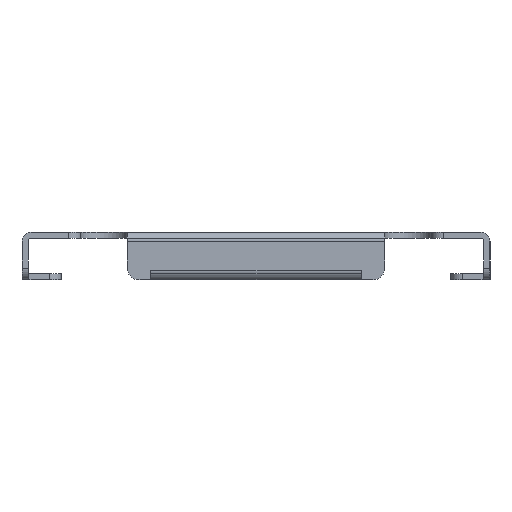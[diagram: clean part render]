
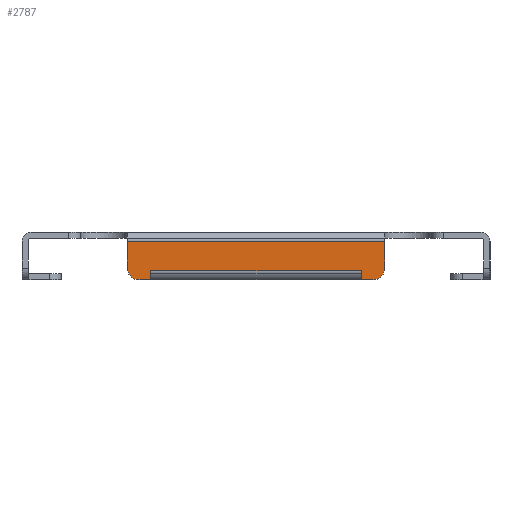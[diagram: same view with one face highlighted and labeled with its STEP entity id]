
A CAD part, left-side view. The second image highlights one B-rep face of the part: STEP entity #2787.
In plain terms, the highlighted planar face has unit normal (-1, 0, 0).
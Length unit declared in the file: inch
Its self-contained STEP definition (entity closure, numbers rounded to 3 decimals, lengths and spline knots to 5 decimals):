
#60=PLANE('',#2999);
#159=FACE_OUTER_BOUND('',#301,.T.);
#301=EDGE_LOOP('',(#1989,#1990,#1991,#1992,#1993,#1994,#1995,#1996,#1997,
#1998,#1999,#2000,#2001,#2002));
#499=LINE('',#4229,#799);
#502=LINE('',#4235,#802);
#503=LINE('',#4237,#803);
#504=LINE('',#4239,#804);
#505=LINE('',#4243,#805);
#506=LINE('',#4245,#806);
#507=LINE('',#4247,#807);
#508=LINE('',#4249,#808);
#509=LINE('',#4251,#809);
#510=LINE('',#4253,#810);
#511=LINE('',#4255,#811);
#512=LINE('',#4256,#812);
#799=VECTOR('',#3400,0.3937);
#802=VECTOR('',#3405,0.3937);
#803=VECTOR('',#3406,0.3937);
#804=VECTOR('',#3407,0.3937);
#805=VECTOR('',#3410,0.3937);
#806=VECTOR('',#3411,0.3937);
#807=VECTOR('',#3412,0.3937);
#808=VECTOR('',#3413,0.3937);
#809=VECTOR('',#3414,0.3937);
#810=VECTOR('',#3415,0.3937);
#811=VECTOR('',#3416,0.3937);
#812=VECTOR('',#3417,0.3937);
#1066=CIRCLE('',#2997,0.125);
#1067=CIRCLE('',#3000,0.125);
#1219=VERTEX_POINT('',#4222);
#1220=VERTEX_POINT('',#4224);
#1221=VERTEX_POINT('',#4228);
#1223=VERTEX_POINT('',#4234);
#1224=VERTEX_POINT('',#4236);
#1225=VERTEX_POINT('',#4238);
#1226=VERTEX_POINT('',#4240);
#1227=VERTEX_POINT('',#4242);
#1228=VERTEX_POINT('',#4244);
#1229=VERTEX_POINT('',#4246);
#1230=VERTEX_POINT('',#4248);
#1231=VERTEX_POINT('',#4250);
#1232=VERTEX_POINT('',#4252);
#1233=VERTEX_POINT('',#4254);
#1531=EDGE_CURVE('',#1219,#1220,#1066,.T.);
#1533=EDGE_CURVE('',#1221,#1220,#499,.T.);
#1536=EDGE_CURVE('',#1219,#1223,#502,.T.);
#1537=EDGE_CURVE('',#1224,#1223,#503,.T.);
#1538=EDGE_CURVE('',#1224,#1225,#504,.T.);
#1539=EDGE_CURVE('',#1226,#1225,#1067,.T.);
#1540=EDGE_CURVE('',#1226,#1227,#505,.T.);
#1541=EDGE_CURVE('',#1227,#1228,#506,.T.);
#1542=EDGE_CURVE('',#1228,#1229,#507,.T.);
#1543=EDGE_CURVE('',#1229,#1230,#508,.T.);
#1544=EDGE_CURVE('',#1230,#1231,#509,.T.);
#1545=EDGE_CURVE('',#1231,#1232,#510,.T.);
#1546=EDGE_CURVE('',#1232,#1233,#511,.T.);
#1547=EDGE_CURVE('',#1233,#1221,#512,.T.);
#1989=ORIENTED_EDGE('',*,*,#1531,.F.);
#1990=ORIENTED_EDGE('',*,*,#1536,.T.);
#1991=ORIENTED_EDGE('',*,*,#1537,.F.);
#1992=ORIENTED_EDGE('',*,*,#1538,.T.);
#1993=ORIENTED_EDGE('',*,*,#1539,.F.);
#1994=ORIENTED_EDGE('',*,*,#1540,.T.);
#1995=ORIENTED_EDGE('',*,*,#1541,.T.);
#1996=ORIENTED_EDGE('',*,*,#1542,.T.);
#1997=ORIENTED_EDGE('',*,*,#1543,.T.);
#1998=ORIENTED_EDGE('',*,*,#1544,.T.);
#1999=ORIENTED_EDGE('',*,*,#1545,.T.);
#2000=ORIENTED_EDGE('',*,*,#1546,.T.);
#2001=ORIENTED_EDGE('',*,*,#1547,.T.);
#2002=ORIENTED_EDGE('',*,*,#1533,.T.);
#2787=ADVANCED_FACE('',(#159),#60,.F.);
#2997=AXIS2_PLACEMENT_3D('',#4225,#3395,#3396);
#2999=AXIS2_PLACEMENT_3D('',#4233,#3403,#3404);
#3000=AXIS2_PLACEMENT_3D('',#4241,#3408,#3409);
#3395=DIRECTION('center_axis',(1.,0.,0.));
#3396=DIRECTION('ref_axis',(0.,-0.707,-0.707));
#3400=DIRECTION('',(0.,-1.,0.));
#3403=DIRECTION('center_axis',(1.,0.,0.));
#3404=DIRECTION('ref_axis',(0.,0.,-1.));
#3405=DIRECTION('',(0.,0.,1.));
#3406=DIRECTION('',(0.,-1.,0.));
#3407=DIRECTION('',(0.,0.,-1.));
#3408=DIRECTION('center_axis',(1.,0.,0.));
#3409=DIRECTION('ref_axis',(0.,0.707,-0.707));
#3410=DIRECTION('',(0.,-1.,0.));
#3411=DIRECTION('',(0.,0.,1.));
#3412=DIRECTION('',(0.,-1.,0.));
#3413=DIRECTION('',(0.,0.,-1.));
#3414=DIRECTION('',(0.,-1.,0.));
#3415=DIRECTION('',(0.,0.,1.));
#3416=DIRECTION('',(0.,-1.,0.));
#3417=DIRECTION('',(0.,0.,-1.));
#4222=CARTESIAN_POINT('',(-14.9875,-1.375,-0.319));
#4224=CARTESIAN_POINT('',(-14.9875,-1.25,-0.444));
#4225=CARTESIAN_POINT('Origin',(-14.9875,-1.25,-0.319));
#4228=CARTESIAN_POINT('',(-14.9875,-1.1252,-0.444));
#4229=CARTESIAN_POINT('',(-14.9875,1.375,-0.444));
#4233=CARTESIAN_POINT('Origin',(-14.9875,0.,-0.188));
#4234=CARTESIAN_POINT('',(-14.9875,-1.375,-0.031));
#4235=CARTESIAN_POINT('',(-14.9875,-1.375,-0.444));
#4236=CARTESIAN_POINT('',(-14.9875,1.375,-0.031));
#4237=CARTESIAN_POINT('',(-14.9875,-1.375,-0.031));
#4238=CARTESIAN_POINT('',(-14.9875,1.375,-0.319));
#4239=CARTESIAN_POINT('',(-14.9875,1.375,0.068));
#4240=CARTESIAN_POINT('',(-14.9875,1.25,-0.444));
#4241=CARTESIAN_POINT('Origin',(-14.9875,1.25,-0.319));
#4242=CARTESIAN_POINT('',(-14.9875,1.1252,-0.444));
#4243=CARTESIAN_POINT('',(-14.9875,1.375,-0.444));
#4244=CARTESIAN_POINT('',(-14.9875,1.1252,-0.3448));
#4245=CARTESIAN_POINT('',(-14.9875,1.1252,-0.316));
#4246=CARTESIAN_POINT('',(-14.9875,1.125,-0.3448));
#4247=CARTESIAN_POINT('',(-14.9875,0.5626,-0.3448));
#4248=CARTESIAN_POINT('',(-14.9875,1.125,-0.345));
#4249=CARTESIAN_POINT('',(-14.9875,1.125,-0.2664));
#4250=CARTESIAN_POINT('',(-14.9875,-1.125,-0.345));
#4251=CARTESIAN_POINT('',(-14.9875,-0.5625,-0.345));
#4252=CARTESIAN_POINT('',(-14.9875,-1.125,-0.3448));
#4253=CARTESIAN_POINT('',(-14.9875,-1.125,-0.316));
#4254=CARTESIAN_POINT('',(-14.9875,-1.1252,-0.3448));
#4255=CARTESIAN_POINT('',(-14.9875,-0.5625,-0.3448));
#4256=CARTESIAN_POINT('',(-14.9875,-1.1252,-0.2664));
